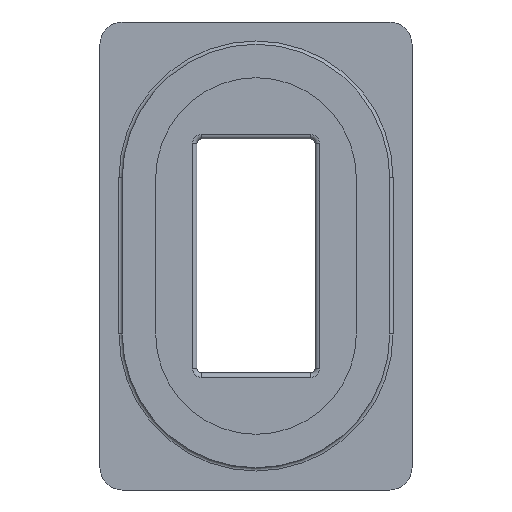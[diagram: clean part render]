
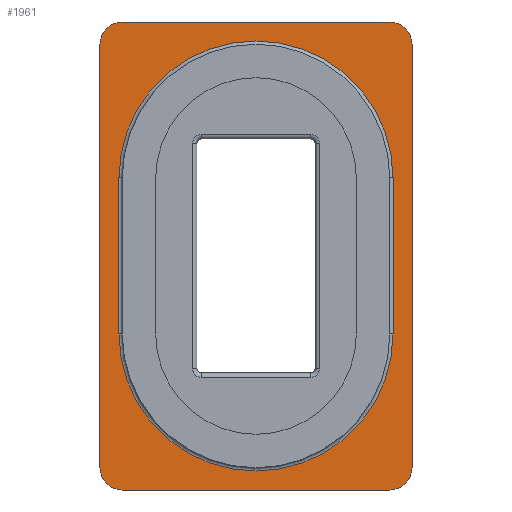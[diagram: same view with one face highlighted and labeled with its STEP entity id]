
A CAD part, front view. The second image highlights one B-rep face of the part: STEP entity #1961.
In plain terms, the highlighted planar face has unit normal (0, -1, 0).
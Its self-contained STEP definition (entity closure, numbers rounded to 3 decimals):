
#1961=ADVANCED_FACE('',(#3983,#3985),#3987,.F.);
#3983=FACE_BOUND('',#3984,.T.);
#3984=EDGE_LOOP('',(#5281,#5282,#5283,#5284,#5285,#5286,#5287,#5288));
#3985=FACE_BOUND('',#3986,.T.);
#3986=EDGE_LOOP('',(#5289,#5290,#5291,#5292));
#3987=PLANE('',#3988);
#3988=AXIS2_PLACEMENT_3D('',#3989,#3990,#3991);
#3989=CARTESIAN_POINT('',(0.,78.,0.));
#3990=DIRECTION('',(-0.,1.,0.));
#3991=DIRECTION('',(1.,0.,0.));
#5281=ORIENTED_EDGE('',*,*,#5957,.F.);
#5282=ORIENTED_EDGE('',*,*,#5958,.F.);
#5283=ORIENTED_EDGE('',*,*,#5959,.F.);
#5284=ORIENTED_EDGE('',*,*,#5960,.F.);
#5285=ORIENTED_EDGE('',*,*,#5961,.F.);
#5286=ORIENTED_EDGE('',*,*,#5962,.F.);
#5287=ORIENTED_EDGE('',*,*,#5963,.F.);
#5288=ORIENTED_EDGE('',*,*,#5964,.F.);
#5289=ORIENTED_EDGE('',*,*,#5944,.T.);
#5290=ORIENTED_EDGE('',*,*,#5942,.T.);
#5291=ORIENTED_EDGE('',*,*,#5948,.T.);
#5292=ORIENTED_EDGE('',*,*,#5946,.T.);
#5942=EDGE_CURVE('',#6731,#6729,#6732,.F.);
#5944=EDGE_CURVE('',#6734,#6731,#6735,.T.);
#5946=EDGE_CURVE('',#6737,#6734,#6738,.F.);
#5948=EDGE_CURVE('',#6729,#6737,#6740,.F.);
#5957=EDGE_CURVE('',#6753,#6754,#6755,.F.);
#5958=EDGE_CURVE('',#6756,#6753,#6757,.T.);
#5959=EDGE_CURVE('',#6758,#6756,#6759,.F.);
#5960=EDGE_CURVE('',#6760,#6758,#6761,.T.);
#5961=EDGE_CURVE('',#6762,#6760,#6763,.F.);
#5962=EDGE_CURVE('',#6764,#6762,#6765,.T.);
#5963=EDGE_CURVE('',#6766,#6764,#6767,.F.);
#5964=EDGE_CURVE('',#6754,#6766,#6768,.T.);
#6729=VERTEX_POINT('',#8645);
#6731=VERTEX_POINT('',#8650);
#6732=LINE('',#8651,#8652);
#6734=VERTEX_POINT('',#8658);
#6735=CIRCLE('',#8659,61.5);
#6737=VERTEX_POINT('',#8667);
#6738=LINE('',#8668,#8669);
#6740=CIRCLE('',#8675,61.5);
#6753=VERTEX_POINT('',#8713);
#6754=VERTEX_POINT('',#8714);
#6755=CIRCLE('',#8715,10.);
#6756=VERTEX_POINT('',#8719);
#6757=LINE('',#8720,#8721);
#6758=VERTEX_POINT('',#8723);
#6759=CIRCLE('',#8724,10.);
#6760=VERTEX_POINT('',#8728);
#6761=LINE('',#8729,#8730);
#6762=VERTEX_POINT('',#8732);
#6763=CIRCLE('',#8733,10.);
#6764=VERTEX_POINT('',#8737);
#6765=LINE('',#8738,#8739);
#6766=VERTEX_POINT('',#8741);
#6767=CIRCLE('',#8742,10.);
#6768=LINE('',#8746,#8747);
#8645=CARTESIAN_POINT('',(61.5,78.,-70.));
#8650=CARTESIAN_POINT('',(61.5,78.,0.));
#8651=CARTESIAN_POINT('',(61.5,78.,-70.));
#8652=VECTOR('',#8653,1.);
#8653=DIRECTION('',(0.,0.,1.));
#8658=CARTESIAN_POINT('',(-61.5,78.,0.));
#8659=AXIS2_PLACEMENT_3D('',#8660,#8661,#8662);
#8660=CARTESIAN_POINT('',(0.,78.,0.));
#8661=DIRECTION('',(0.,1.,0.));
#8662=DIRECTION('',(-1.,0.,0.));
#8667=CARTESIAN_POINT('',(-61.5,78.,-70.));
#8668=CARTESIAN_POINT('',(-61.5,78.,0.));
#8669=VECTOR('',#8670,1.);
#8670=DIRECTION('',(0.,0.,-1.));
#8675=AXIS2_PLACEMENT_3D('',#8676,#8677,#8678);
#8676=CARTESIAN_POINT('',(0.,78.,-70.));
#8677=DIRECTION('',(0.,-1.,0.));
#8678=DIRECTION('',(-1.,0.,0.));
#8713=CARTESIAN_POINT('',(70.,78.,-130.));
#8714=CARTESIAN_POINT('',(60.,78.,-140.));
#8715=AXIS2_PLACEMENT_3D('',#8716,#8717,#8718);
#8716=CARTESIAN_POINT('',(60.,78.,-130.));
#8717=DIRECTION('',(0.,-1.,0.));
#8718=DIRECTION('',(0.,0.,-1.));
#8719=CARTESIAN_POINT('',(70.,78.,60.));
#8720=CARTESIAN_POINT('',(70.,78.,60.));
#8721=VECTOR('',#8722,1.);
#8722=DIRECTION('',(0.,0.,-1.));
#8723=CARTESIAN_POINT('',(60.,78.,70.));
#8724=AXIS2_PLACEMENT_3D('',#8725,#8726,#8727);
#8725=CARTESIAN_POINT('',(60.,78.,60.));
#8726=DIRECTION('',(0.,-1.,0.));
#8727=DIRECTION('',(1.,0.,0.));
#8728=CARTESIAN_POINT('',(-60.,78.,70.));
#8729=CARTESIAN_POINT('',(-60.,78.,70.));
#8730=VECTOR('',#8731,1.);
#8731=DIRECTION('',(1.,0.,0.));
#8732=CARTESIAN_POINT('',(-70.,78.,60.));
#8733=AXIS2_PLACEMENT_3D('',#8734,#8735,#8736);
#8734=CARTESIAN_POINT('',(-60.,78.,60.));
#8735=DIRECTION('',(0.,-1.,0.));
#8736=DIRECTION('',(0.,0.,1.));
#8737=CARTESIAN_POINT('',(-70.,78.,-130.));
#8738=CARTESIAN_POINT('',(-70.,78.,-130.));
#8739=VECTOR('',#8740,1.);
#8740=DIRECTION('',(0.,0.,1.));
#8741=CARTESIAN_POINT('',(-60.,78.,-140.));
#8742=AXIS2_PLACEMENT_3D('',#8743,#8744,#8745);
#8743=CARTESIAN_POINT('',(-60.,78.,-130.));
#8744=DIRECTION('',(0.,-1.,0.));
#8745=DIRECTION('',(-1.,0.,0.));
#8746=CARTESIAN_POINT('',(60.,78.,-140.));
#8747=VECTOR('',#8748,1.);
#8748=DIRECTION('',(-1.,0.,0.));
